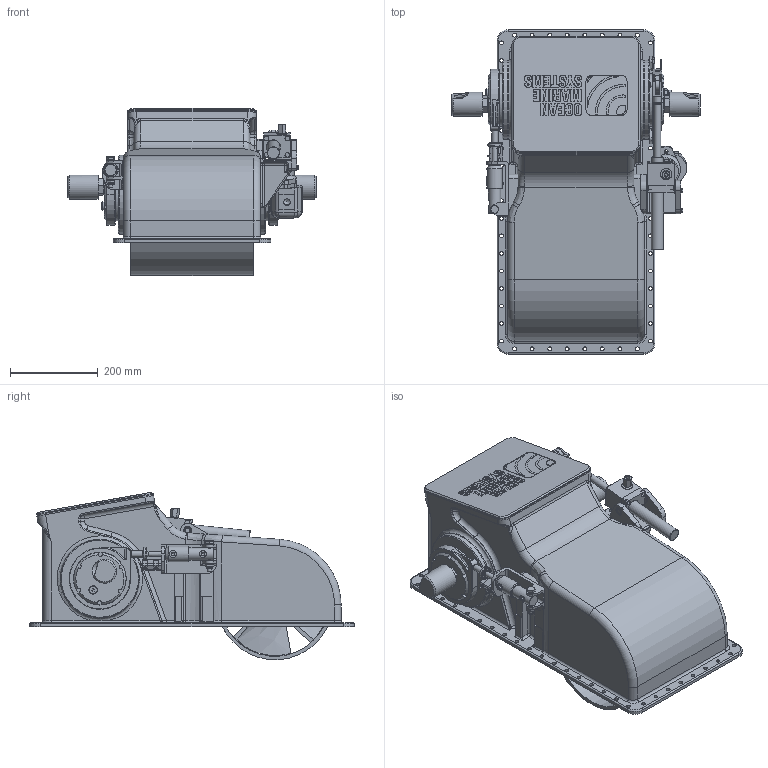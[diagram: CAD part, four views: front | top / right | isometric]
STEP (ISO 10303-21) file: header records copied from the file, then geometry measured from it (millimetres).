
FILE_DESCRIPTION(/* description */ (''),/* implementation_level */ '2;1');
FILE_NAME(/* name */ 'Q:\THRUSTERS\THRUSTER SALES & SUPPORT DOCS\THRUSTER Sales\H-S\H-0250-S\H-0250-S Retracted.stp',/* time_stamp */ '2021-01-26T11:28:22+00:00',/* author */ ('Barney.Webborn'),/* organization */ (''),/* preprocessor_version */ 'ST-DEVELOPER v17.2',/* originating_system */ 'Autodesk Inventor 2019',/* authorisation */ '');
FILE_SCHEMA (('AUTOMOTIVE_DESIGN { 1 0 10303 214 3 1 1 }'));
Length unit declared in the file: millimetre
Products named in the file (1): H-0250-S_Shrinkwrap_2
Bounding box: 565.5 x 740 x 381.53 mm (x, y, z)
Volume: 15058393.8 mm3; surface area: 3224575.3 mm2
Topology: 7 solids, 7 shells, 2457 faces, 6256 edges, 3942 vertices
Faces by surface type: plane 973, cylinder 736, bspline 353, cone 198, torus 166, sphere 31
Full cylindrical faces by diameter (mm): 3 x6, 4 x2, 5 x2, 5.5 x2, 8.5 x54, 8.566 x4, 10 x10, 11 x4, 11.157 x1, 11.429 x1, 11.445 x1, 11.8 x4, 12 x7, 12.7 x1, 13 x1, 13.157 x1, 13.333 x1, 14 x2, 14.95 x2, 15.6 x2, 16 x3, 18 x2, 18.7 x1, 19 x1, 19.05 x2, 20 x3, 23 x1, 24.5 x6, 26 x3, 26.25 x2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
Entity records: 120318 total; most frequent: CARTESIAN_POINT 59341, ORIENTED_EDGE 12434, DIRECTION 11731, EDGE_CURVE 6217, AXIS2_PLACEMENT_3D 4387, VERTEX_POINT 3942, LINE 2957, VECTOR 2957
